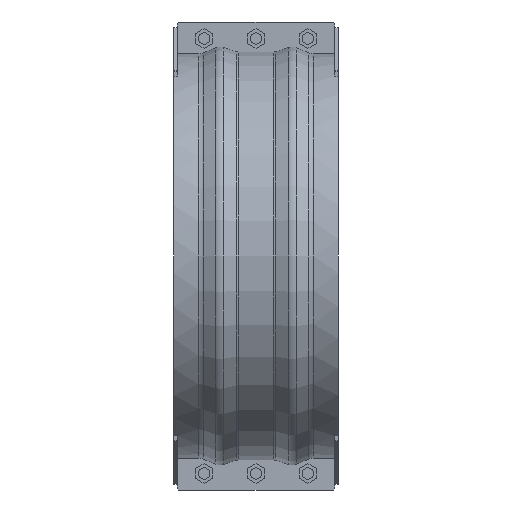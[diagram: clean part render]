
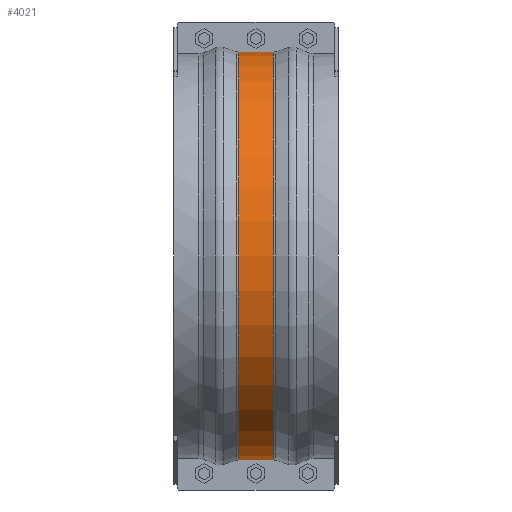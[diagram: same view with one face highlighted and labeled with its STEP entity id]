
A CAD part, front view. The second image highlights one B-rep face of the part: STEP entity #4021.
In plain terms, the highlighted cylindrical face has radius 394.002 mm (diameter 788.004 mm), a partial arc.
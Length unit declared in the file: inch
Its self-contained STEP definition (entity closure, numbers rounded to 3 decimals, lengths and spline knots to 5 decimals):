
#384=FACE_OUTER_BOUND('',#609,.T.);
#609=EDGE_LOOP('',(#3041,#3042,#3043,#3044));
#920=LINE('',#6221,#1293);
#922=LINE('',#6365,#1295);
#1293=VECTOR('',#4970,0.3937);
#1295=VECTOR('',#5024,0.3937);
#1535=CIRCLE('',#4305,15.51189);
#1537=CIRCLE('',#4309,15.51189);
#1796=VERTEX_POINT('',#6213);
#1797=VERTEX_POINT('',#6220);
#1812=VERTEX_POINT('',#6350);
#1814=VERTEX_POINT('',#6363);
#2243=EDGE_CURVE('',#1797,#1796,#920,.T.);
#2268=EDGE_CURVE('',#1812,#1797,#1535,.T.);
#2272=EDGE_CURVE('',#1814,#1796,#1537,.T.);
#2273=EDGE_CURVE('',#1814,#1812,#922,.T.);
#3041=ORIENTED_EDGE('',*,*,#2243,.T.);
#3042=ORIENTED_EDGE('',*,*,#2272,.F.);
#3043=ORIENTED_EDGE('',*,*,#2273,.T.);
#3044=ORIENTED_EDGE('',*,*,#2268,.T.);
#3688=CYLINDRICAL_SURFACE('',#4308,15.51189);
#4021=ADVANCED_FACE('',(#384),#3688,.T.);
#4305=AXIS2_PLACEMENT_3D('',#6351,#5013,#5014);
#4308=AXIS2_PLACEMENT_3D('',#6362,#5020,#5021);
#4309=AXIS2_PLACEMENT_3D('',#6364,#5022,#5023);
#4970=DIRECTION('',(1.,0.,0.));
#5013=DIRECTION('center_axis',(1.,0.,0.));
#5014=DIRECTION('ref_axis',(0.,0.,-1.));
#5020=DIRECTION('center_axis',(1.,0.,0.));
#5021=DIRECTION('ref_axis',(0.,-1.,0.));
#5022=DIRECTION('center_axis',(1.,0.,0.));
#5023=DIRECTION('ref_axis',(0.,0.,-1.));
#5024=DIRECTION('',(-1.,0.,0.));
#6213=CARTESIAN_POINT('',(1.31451,-0.375,-15.50735));
#6220=CARTESIAN_POINT('',(-1.31451,-0.375,-15.50735));
#6221=CARTESIAN_POINT('',(0.,-0.375,-15.50735));
#6350=CARTESIAN_POINT('',(-1.31451,-0.375,15.50735));
#6351=CARTESIAN_POINT('Origin',(-1.31451,0.,
0.));
#6362=CARTESIAN_POINT('Origin',(0.,0.,0.));
#6363=CARTESIAN_POINT('',(1.31451,-0.375,15.50735));
#6364=CARTESIAN_POINT('Origin',(1.31451,0.,0.));
#6365=CARTESIAN_POINT('',(0.,-0.375,15.50735));
